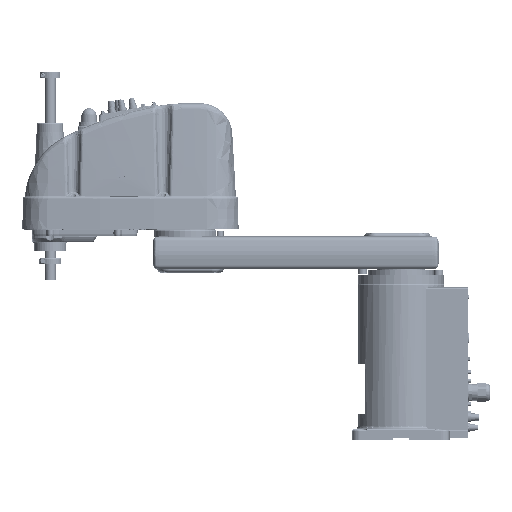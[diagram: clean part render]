
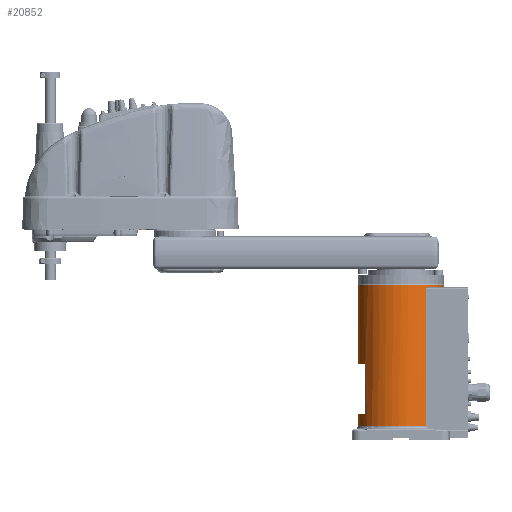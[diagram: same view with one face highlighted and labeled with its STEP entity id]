
A CAD part, top view. The second image highlights one B-rep face of the part: STEP entity #20852.
In plain terms, the highlighted cylindrical face has radius 80 mm (diameter 160 mm), a partial arc.
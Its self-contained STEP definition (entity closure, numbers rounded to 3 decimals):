
#61=DIRECTION('',(0.,-1.,0.));
#62=VECTOR('',#61,93.);
#63=CARTESIAN_POINT('',(-66.,-152.5,45.211));
#64=LINE('',#63,#62);
#73=CARTESIAN_POINT('',(0.,-152.5,0.));
#74=DIRECTION('',(0.,-1.,0.));
#75=DIRECTION('',(-0.825,0.,0.565));
#76=AXIS2_PLACEMENT_3D('',#73,#74,#75);
#78=CARTESIAN_POINT('',(0.,-11.,0.));
#79=DIRECTION('',(0.,-1.,0.));
#80=DIRECTION('',(1.,0.,0.));
#81=AXIS2_PLACEMENT_3D('',#78,#79,#80);
#83=DIRECTION('',(0.,1.,0.));
#84=VECTOR('',#83,254.);
#85=CARTESIAN_POINT('',(46.637,-268.,65.));
#86=LINE('',#85,#84);
#87=CARTESIAN_POINT('',(0.,-268.,0.));
#88=DIRECTION('',(0.,1.,0.));
#89=DIRECTION('',(-1.,0.,0.));
#90=AXIS2_PLACEMENT_3D('',#87,#88,#89);
#92=CARTESIAN_POINT('',(0.,-245.5,0.));
#93=DIRECTION('',(0.,-1.,0.));
#94=DIRECTION('',(-0.825,0.,0.565));
#95=AXIS2_PLACEMENT_3D('',#92,#93,#94);
#106=DIRECTION('',(0.,1.,0.));
#107=VECTOR('',#106,22.5);
#108=CARTESIAN_POINT('',(-80.,-268.,0.));
#109=LINE('',#108,#107);
#124=DIRECTION('',(0.,1.,0.));
#125=VECTOR('',#124,4.5);
#126=CARTESIAN_POINT('',(80.,-11.,0.));
#127=LINE('',#126,#125);
#128=DIRECTION('',(0.,1.,0.));
#129=VECTOR('',#128,146.);
#130=CARTESIAN_POINT('',(-80.,-152.5,0.));
#131=LINE('',#130,#129);
#924=CARTESIAN_POINT('',(46.637,-14.,65.));
#925=CARTESIAN_POINT('',(46.637,-13.954,65.));
#926=CARTESIAN_POINT('',(46.64,-13.861,64.998));
#927=CARTESIAN_POINT('',(46.653,-13.722,64.988));
#928=CARTESIAN_POINT('',(46.676,-13.582,64.972));
#929=CARTESIAN_POINT('',(46.709,-13.441,64.949));
#930=CARTESIAN_POINT('',(46.751,-13.298,64.918));
#931=CARTESIAN_POINT('',(46.805,-13.153,64.879));
#932=CARTESIAN_POINT('',(46.87,-13.006,64.832));
#933=CARTESIAN_POINT('',(46.949,-12.856,64.775));
#934=CARTESIAN_POINT('',(47.042,-12.705,64.708));
#935=CARTESIAN_POINT('',(47.15,-12.552,64.629));
#936=CARTESIAN_POINT('',(47.274,-12.397,64.538));
#937=CARTESIAN_POINT('',(47.417,-12.242,64.433));
#938=CARTESIAN_POINT('',(47.579,-12.087,64.314));
#939=CARTESIAN_POINT('',(47.761,-11.934,64.178));
#940=CARTESIAN_POINT('',(47.966,-11.784,64.026));
#941=CARTESIAN_POINT('',(48.191,-11.64,63.856));
#942=CARTESIAN_POINT('',(48.438,-11.503,63.669));
#943=CARTESIAN_POINT('',(48.705,-11.378,63.465));
#944=CARTESIAN_POINT('',(48.99,-11.267,63.246));
#945=CARTESIAN_POINT('',(49.29,-11.172,63.012));
#946=CARTESIAN_POINT('',(49.601,-11.096,62.768));
#947=CARTESIAN_POINT('',(49.918,-11.041,62.516));
#948=CARTESIAN_POINT('',(50.239,-11.007,62.258));
#949=CARTESIAN_POINT('',(50.451,-11.,62.086));
#950=CARTESIAN_POINT('',(50.557,-11.,62.));
#6354=CARTESIAN_POINT('',(0.,-6.5,0.));
#6355=DIRECTION('',(0.,-1.,0.));
#6356=DIRECTION('',(1.,0.,0.));
#6357=AXIS2_PLACEMENT_3D('',#6354,#6355,#6356);
#19303=CARTESIAN_POINT('',(-66.,-152.5,45.211));
#19304=CARTESIAN_POINT('',(-80.,-152.5,0.));
#19305=VERTEX_POINT('',#19303);
#19306=VERTEX_POINT('',#19304);
#19349=CARTESIAN_POINT('',(-66.,-245.5,45.211));
#19350=CARTESIAN_POINT('',(-80.,-245.5,0.));
#19351=VERTEX_POINT('',#19349);
#19352=VERTEX_POINT('',#19350);
#19381=CARTESIAN_POINT('',(-80.,-268.,0.));
#19382=CARTESIAN_POINT('',(46.637,-268.,65.));
#19383=VERTEX_POINT('',#19381);
#19384=VERTEX_POINT('',#19382);
#20260=CARTESIAN_POINT('',(46.637,-14.,65.));
#20262=VERTEX_POINT('',#20260);
#20264=CARTESIAN_POINT('',(50.557,-11.,62.));
#20266=VERTEX_POINT('',#20264);
#20276=CARTESIAN_POINT('',(80.,-11.,0.));
#20277=VERTEX_POINT('',#20276);
#20426=CARTESIAN_POINT('',(80.,-6.5,0.));
#20427=CARTESIAN_POINT('',(-80.,-6.5,0.));
#20428=VERTEX_POINT('',#20426);
#20429=VERTEX_POINT('',#20427);
#20824=CARTESIAN_POINT('',(0.,8.4,0.));
#20825=DIRECTION('',(0.,-1.,0.));
#20826=DIRECTION('',(-1.,0.,0.));
#20827=AXIS2_PLACEMENT_3D('',#20824,#20825,#20826);
#20828=CYLINDRICAL_SURFACE('',#20827,80.);
#20829=ORIENTED_EDGE('',*,*,#20796,.F.);
#20831=ORIENTED_EDGE('',*,*,#20830,.T.);
#20833=ORIENTED_EDGE('',*,*,#20832,.T.);
#20835=ORIENTED_EDGE('',*,*,#20834,.F.);
#20837=ORIENTED_EDGE('',*,*,#20836,.F.);
#20839=ORIENTED_EDGE('',*,*,#20838,.T.);
#20841=ORIENTED_EDGE('',*,*,#20840,.F.);
#20843=ORIENTED_EDGE('',*,*,#20842,.F.);
#20845=ORIENTED_EDGE('',*,*,#20844,.F.);
#20847=ORIENTED_EDGE('',*,*,#20846,.T.);
#20849=ORIENTED_EDGE('',*,*,#20848,.F.);
#20850=EDGE_LOOP('',(#20829,#20831,#20833,#20835,#20837,#20839,#20841,#20843,
#20845,#20847,#20849));
#20851=FACE_OUTER_BOUND('',#20850,.F.);
#20852=ADVANCED_FACE('',(#20851),#20828,.T.);
#77=CIRCLE('',#76,80.);
#82=CIRCLE('',#81,80.);
#91=CIRCLE('',#90,80.);
#96=CIRCLE('',#95,80.);
#951=B_SPLINE_CURVE_WITH_KNOTS('',3,(#924,#925,#926,#927,#928,#929,#930,#931,
#932,#933,#934,#935,#936,#937,#938,#939,#940,#941,#942,#943,#944,#945,#946,#947,
#948,#949,#950),.UNSPECIFIED.,.F.,.F.,(4,1,1,1,1,1,1,1,1,1,1,1,1,1,1,1,1,1,1,1,
1,1,1,1,4),(0.,0.042,0.083,0.125,0.167,
0.208,0.25,0.292,0.333,0.375,
0.417,0.458,0.5,0.542,0.583,
0.625,0.667,0.708,0.75,0.792,
0.833,0.875,0.917,0.958,1.),
.UNSPECIFIED.);
#6358=CIRCLE('',#6357,80.);
#20796=EDGE_CURVE('',#19305,#19351,#64,.T.);
#20830=EDGE_CURVE('',#19305,#19306,#77,.T.);
#20832=EDGE_CURVE('',#19306,#20429,#131,.T.);
#20834=EDGE_CURVE('',#20428,#20429,#6358,.T.);
#20836=EDGE_CURVE('',#20277,#20428,#127,.T.);
#20838=EDGE_CURVE('',#20277,#20266,#82,.T.);
#20840=EDGE_CURVE('',#20262,#20266,#951,.T.);
#20842=EDGE_CURVE('',#19384,#20262,#86,.T.);
#20844=EDGE_CURVE('',#19383,#19384,#91,.T.);
#20846=EDGE_CURVE('',#19383,#19352,#109,.T.);
#20848=EDGE_CURVE('',#19351,#19352,#96,.T.);
